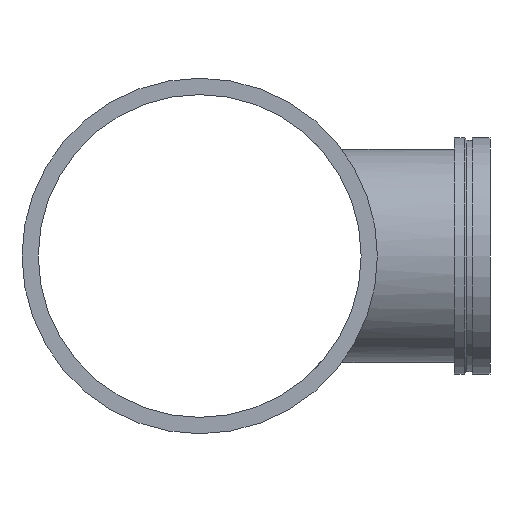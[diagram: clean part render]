
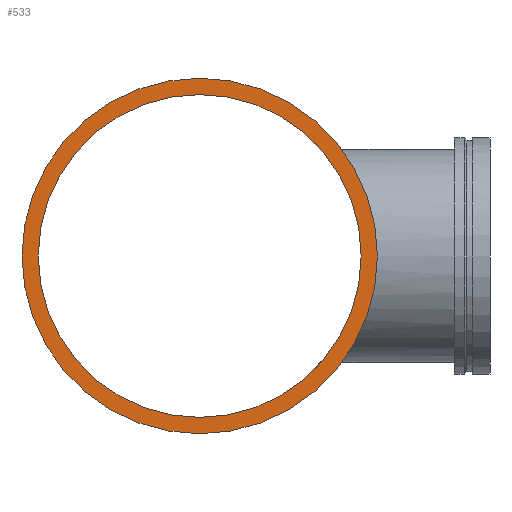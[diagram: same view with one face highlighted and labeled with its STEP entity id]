
A CAD part, left-side view. The second image highlights one B-rep face of the part: STEP entity #533.
In plain terms, the highlighted planar face has unit normal (-1, 0, 0).
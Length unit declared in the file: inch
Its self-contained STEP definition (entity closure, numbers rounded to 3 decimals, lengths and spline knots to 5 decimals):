
#58=FACE_BOUND('',#128,.T.);
#67=PLANE('',#626);
#92=FACE_OUTER_BOUND('',#127,.T.);
#127=EDGE_LOOP('',(#465,#466));
#128=EDGE_LOOP('',(#467,#468));
#151=CIRCLE('',#587,15.);
#152=CIRCLE('',#588,15.);
#175=CIRCLE('',#624,13.625);
#176=CIRCLE('',#625,13.625);
#239=VERTEX_POINT('',#1105);
#240=VERTEX_POINT('',#1107);
#263=VERTEX_POINT('',#1174);
#264=VERTEX_POINT('',#1176);
#299=EDGE_CURVE('',#239,#240,#151,.T.);
#300=EDGE_CURVE('',#240,#239,#152,.T.);
#331=EDGE_CURVE('',#264,#263,#175,.T.);
#332=EDGE_CURVE('',#263,#264,#176,.T.);
#465=ORIENTED_EDGE('',*,*,#300,.F.);
#466=ORIENTED_EDGE('',*,*,#299,.F.);
#467=ORIENTED_EDGE('',*,*,#331,.T.);
#468=ORIENTED_EDGE('',*,*,#332,.T.);
#533=ADVANCED_FACE('',(#92,#58),#67,.T.);
#587=AXIS2_PLACEMENT_3D('',#1108,#716,#717);
#588=AXIS2_PLACEMENT_3D('',#1109,#718,#719);
#624=AXIS2_PLACEMENT_3D('',#1177,#798,#799);
#625=AXIS2_PLACEMENT_3D('',#1178,#800,#801);
#626=AXIS2_PLACEMENT_3D('',#1179,#802,#803);
#716=DIRECTION('center_axis',(1.,0.,0.));
#717=DIRECTION('ref_axis',(0.,0.,1.));
#718=DIRECTION('center_axis',(1.,0.,0.));
#719=DIRECTION('ref_axis',(0.,0.,1.));
#798=DIRECTION('center_axis',(1.,0.,0.));
#799=DIRECTION('ref_axis',(0.,0.,1.));
#800=DIRECTION('center_axis',(1.,0.,0.));
#801=DIRECTION('ref_axis',(0.,0.,1.));
#802=DIRECTION('center_axis',(-1.,0.,0.));
#803=DIRECTION('ref_axis',(0.,0.,-1.));
#1105=CARTESIAN_POINT('',(-26.5,15.,0.));
#1107=CARTESIAN_POINT('',(-26.5,-15.,0.));
#1108=CARTESIAN_POINT('Origin',(-26.5,0.,0.));
#1109=CARTESIAN_POINT('Origin',(-26.5,0.,0.));
#1174=CARTESIAN_POINT('',(-26.5,13.625,0.));
#1176=CARTESIAN_POINT('',(-26.5,-13.625,0.));
#1177=CARTESIAN_POINT('Origin',(-26.5,0.,0.));
#1178=CARTESIAN_POINT('Origin',(-26.5,0.,0.));
#1179=CARTESIAN_POINT('Origin',(-26.5,-15.,0.));
